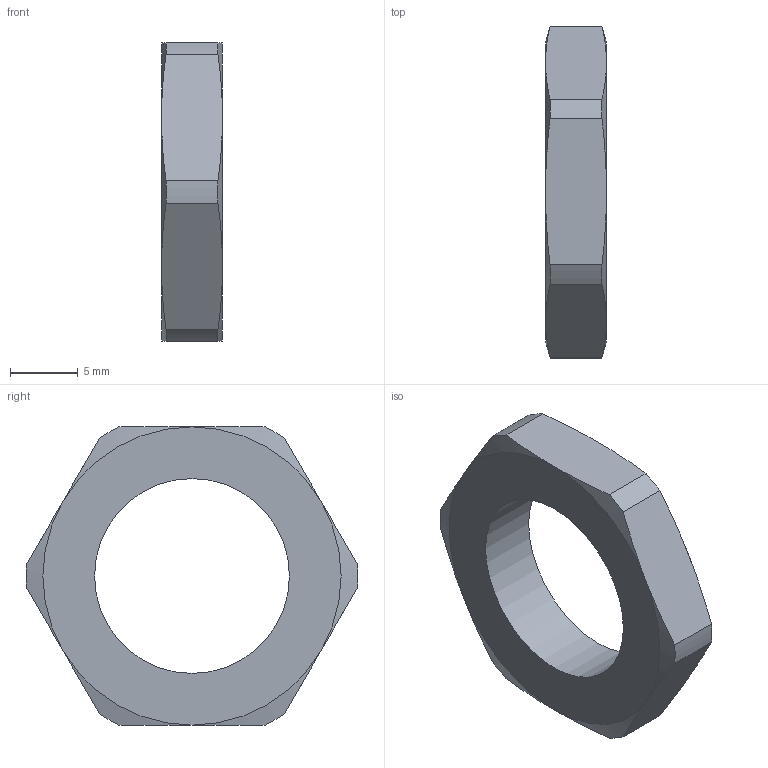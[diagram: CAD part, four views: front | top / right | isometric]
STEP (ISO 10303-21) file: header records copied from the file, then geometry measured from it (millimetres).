
FILE_DESCRIPTION( ( 'STEP AP203' ), '1' );
FILE_NAME( 'C:/Temp/Ganter_Step_05_03_2020/data/3_1/gn909_5/Flat St. Steel-Hexagonal nut GN 909.5-M16x1,5.stp', '2020-03-12T09:07:22', ( 'License CC BY-ND 4.0' ), ( 'CADENAS' ), ' ', 'PARTsolutions', ' ' );
FILE_SCHEMA( ( 'CONFIG_CONTROL_DESIGN' ) );
Length unit declared in the file: millimetre
Products named in the file (1): _Flat St. Steel-Hexagonal nut GN 909.5-M16x1,5
Bounding box: 4.5 x 24.49 x 22 mm (x, y, z)
Volume: 1136.6 mm3; surface area: 1029.7 mm2
Topology: 1 solids, 1 shells, 27 faces, 63 edges, 38 vertices
Faces by surface type: cone 12, plane 8, cylinder 7
Full cylindrical faces by diameter (mm): 14.376 x1
Entity records: 842 total; most frequent: CARTESIAN_POINT 208, ORIENTED_EDGE 124, DIRECTION 120, EDGE_CURVE 62, AXIS2_PLACEMENT_3D 54, VERTEX_POINT 38, EDGE_LOOP 30, FACE_OUTER_BOUND 28
